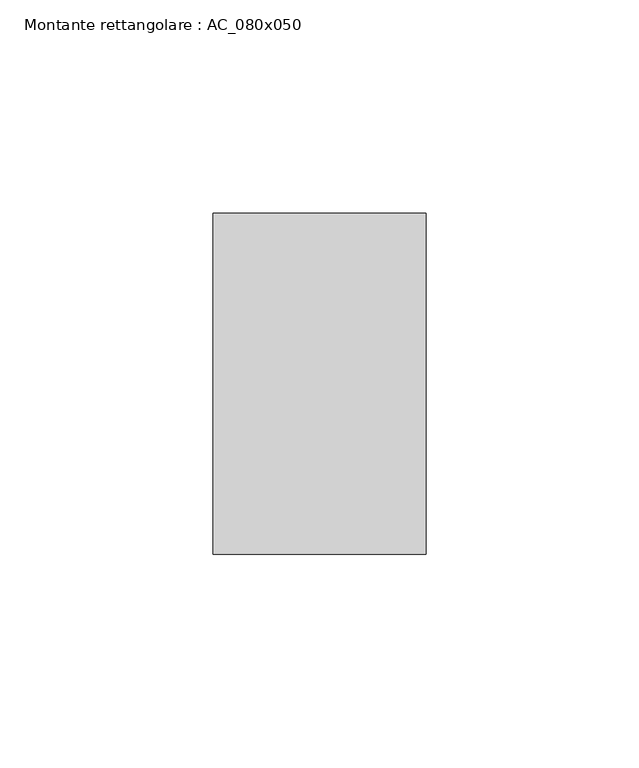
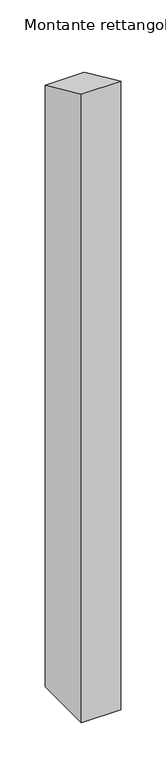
"""IFC4 building model written with IfcOpenShell, lengths in millimetres: member geometry, Montante rettangolare : AC_080x050."""

from ifc_helpers import new_model, si_unit, frame, origin, place, context, project, spatial, polyline, outline, extrude, source, transform, mapped, element, save


def montante_rettangolare_ac_080x050_106e0a45(model_context):
    return source(origin(), model_context, "Body", "SweptSolid", [
        extrude(outline(polyline([(-40.0, 18.2788433), (40.0, -18.2788433), (40.0, -830.0), (-40.0, -830.0), (-40.0, 18.2788433)])), frame((-50.0, 0.0, 0.0), z_axis=(1.0, 0.0, 0.0), x_axis=(0.0, 1.0, 0.0)), (0.0, 0.0, 1.0), 50.0),
    ])


if __name__ == "__main__":
    model = new_model("IFC4")
    model_context = context("Model", 3, world=origin())
    ifc_project = project(units=[si_unit("LENGTHUNIT", "METRE", prefix="MILLI")], contexts=[model_context])
    site = spatial("IfcSite", under=ifc_project)
    building = spatial("IfcBuilding", under=site)
    placement = place(None, origin())
    montante_rettangolare_ac_080x050_shape = montante_rettangolare_ac_080x050_106e0a45(model_context)
    element("IfcMember", 1, ObjectType="Montante rettangolare : AC_080x050", at=placement, inside=building, context=model_context, shape_type="MappedRepresentation", body=[
        mapped(montante_rettangolare_ac_080x050_shape, transform((0.0, 0.0, 0.0), x_axis=(1.0, 0.0, 0.0), y_axis=(0.0, 1.0, 0.0), z_axis=(0.0, 0.0, 1.0))),
    ])
    save(model, "model.ifc")
